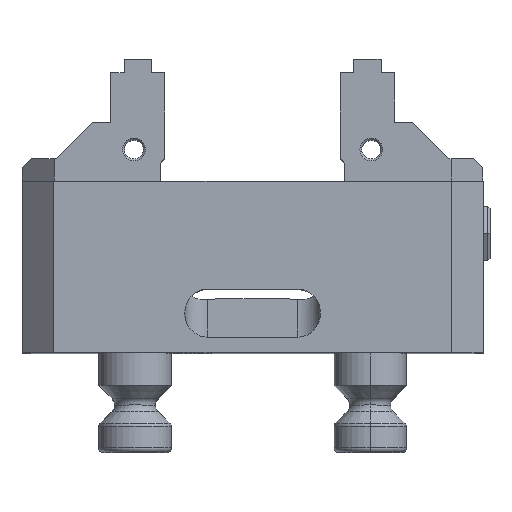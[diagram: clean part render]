
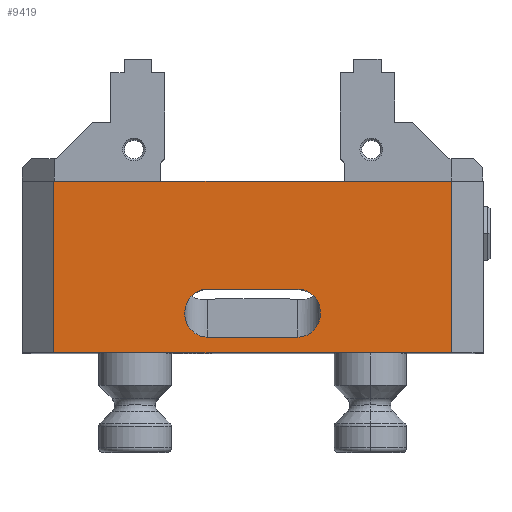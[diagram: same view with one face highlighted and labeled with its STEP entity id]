
A CAD part, top view. The second image highlights one B-rep face of the part: STEP entity #9419.
In plain terms, the highlighted planar face has unit normal (0, 0, 1).
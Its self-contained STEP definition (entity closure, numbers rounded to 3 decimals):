
#235 = ORIENTED_EDGE ( 'NONE', *, *, #1761, .F. ) ;
#391 = CARTESIAN_POINT ( 'NONE',  ( -10., 14.129, 38.5 ) ) ;
#524 = VECTOR ( 'NONE', #2841, 1000. ) ;
#566 = ORIENTED_EDGE ( 'NONE', *, *, #743, .T. ) ;
#695 = CARTESIAN_POINT ( 'NONE',  ( 51., 3.487, 38.5 ) ) ;
#743 = EDGE_CURVE ( 'NONE', #2304, #8644, #12532, .T. ) ;
#847 = VECTOR ( 'NONE', #13395, 1000. ) ;
#904 = ORIENTED_EDGE ( 'NONE', *, *, #7805, .F. ) ;
#963 = VECTOR ( 'NONE', #8796, 1000. ) ;
#1195 = CARTESIAN_POINT ( 'NONE',  ( 10., 3.487, 38.5 ) ) ;
#1478 = CARTESIAN_POINT ( 'NONE',  ( 15., 8.808, 38.5 ) ) ;
#1551 = PLANE ( 'NONE',  #9922 ) ;
#1740 = EDGE_LOOP ( 'NONE', ( #13845, #13939, #904, #9581 ) ) ;
#1761 = EDGE_CURVE ( 'NONE', #8580, #8644, #6250, .T. ) ;
#1778 = CARTESIAN_POINT ( 'NONE',  ( -10., 3.487, 38.5 ) ) ;
#1877 = DIRECTION ( 'NONE',  ( 1., 0., 0. ) ) ;
#1994 =( BOUNDED_CURVE ( )  B_SPLINE_CURVE ( 3, ( #1478, #13245, #4718, #9105 ),
 .UNSPECIFIED., .F., .T. ) 
 B_SPLINE_CURVE_WITH_KNOTS ( ( 4, 4 ),
 ( 1.571, 3.142 ),
 .UNSPECIFIED. ) 
 CURVE ( )  GEOMETRIC_REPRESENTATION_ITEM ( )  RATIONAL_B_SPLINE_CURVE ( ( 1., 0.805, 0.805, 1. ) ) 
 REPRESENTATION_ITEM ( '' )  );
#2021 = DIRECTION ( 'NONE',  ( -1., 0., 0. ) ) ;
#2304 = VERTEX_POINT ( 'NONE', #12303 ) ;
#2440 = ORIENTED_EDGE ( 'NONE', *, *, #9431, .T. ) ;
#2735 = CARTESIAN_POINT ( 'NONE',  ( -15., 8.808, 38.5 ) ) ;
#2761 = CARTESIAN_POINT ( 'NONE',  ( -15., 11.925, 38.5 ) ) ;
#2841 = DIRECTION ( 'NONE',  ( -1., 0., 0. ) ) ;
#2923 = ORIENTED_EDGE ( 'NONE', *, *, #9585, .F. ) ;
#3013 = VECTOR ( 'NONE', #2021, 1000. ) ;
#3782 = CARTESIAN_POINT ( 'NONE',  ( 51., 0., 38.5 ) ) ;
#4038 = CARTESIAN_POINT ( 'NONE',  ( 51., 38., 38.5 ) ) ;
#4205 = CARTESIAN_POINT ( 'NONE',  ( 44., 0., 38.5 ) ) ;
#4718 = CARTESIAN_POINT ( 'NONE',  ( 12.929, 3.487, 38.5 ) ) ;
#4809 = CARTESIAN_POINT ( 'NONE',  ( -12.929, 14.129, 38.5 ) ) ;
#4973 = CARTESIAN_POINT ( 'NONE',  ( -10., 3.487, 38.5 ) ) ;
#5036 = LINE ( 'NONE', #11905, #963 ) ;
#5242 = CARTESIAN_POINT ( 'NONE',  ( 51., 0., 38.5 ) ) ;
#5480 = VERTEX_POINT ( 'NONE', #14086 ) ;
#5557 = ORIENTED_EDGE ( 'NONE', *, *, #9739, .T. ) ;
#5774 = EDGE_CURVE ( 'NONE', #9577, #11404, #5036, .T. ) ;
#5840 = CARTESIAN_POINT ( 'NONE',  ( 44., 38., 38.5 ) ) ;
#5936 = VECTOR ( 'NONE', #1877, 1000. ) ;
#6250 = LINE ( 'NONE', #9564, #3013 ) ;
#6452 = LINE ( 'NONE', #695, #5936 ) ;
#6463 = FACE_BOUND ( 'NONE', #8951, .T. ) ;
#7077 = CARTESIAN_POINT ( 'NONE',  ( -44., 0., 38.5 ) ) ;
#7084 = VERTEX_POINT ( 'NONE', #1778 ) ;
#7106 = DIRECTION ( 'NONE',  ( 0., -1., 0. ) ) ;
#7112 = LINE ( 'NONE', #5840, #847 ) ;
#7300 = CARTESIAN_POINT ( 'NONE',  ( -44., 38., 38.5 ) ) ;
#7532 = CARTESIAN_POINT ( 'NONE',  ( 10., 14.129, 38.5 ) ) ;
#7801 = CARTESIAN_POINT ( 'NONE',  ( 10., 14.129, 38.5 ) ) ;
#7805 = EDGE_CURVE ( 'NONE', #12390, #11404, #9153, .T. ) ;
#8580 = VERTEX_POINT ( 'NONE', #7801 ) ;
#8603 = EDGE_CURVE ( 'NONE', #9441, #13733, #1994, .T. ) ;
#8638 = CARTESIAN_POINT ( 'NONE',  ( 15., 11.925, 38.5 ) ) ;
#8644 = VERTEX_POINT ( 'NONE', #10437 ) ;
#8796 = DIRECTION ( 'NONE',  ( 0., -1., 0. ) ) ;
#8951 = EDGE_LOOP ( 'NONE', ( #2923, #2440, #566, #235, #5557, #10465 ) ) ;
#9105 = CARTESIAN_POINT ( 'NONE',  ( 10., 3.487, 38.5 ) ) ;
#9138 = EDGE_CURVE ( 'NONE', #5480, #9577, #11622, .T. ) ;
#9153 = LINE ( 'NONE', #5242, #12743 ) ;
#9299 = CARTESIAN_POINT ( 'NONE',  ( -15., 8.808, 38.5 ) ) ;
#9368 = DIRECTION ( 'NONE',  ( 0., 0., -1. ) ) ;
#9419 = ADVANCED_FACE ( 'NONE', ( #13825, #6463 ), #1551, .F. ) ;
#9431 = EDGE_CURVE ( 'NONE', #7084, #2304, #13010, .T. ) ;
#9441 = VERTEX_POINT ( 'NONE', #13706 ) ;
#9564 = CARTESIAN_POINT ( 'NONE',  ( 51., 14.129, 38.5 ) ) ;
#9577 = VERTEX_POINT ( 'NONE', #7300 ) ;
#9581 = ORIENTED_EDGE ( 'NONE', *, *, #9878, .T. ) ;
#9585 = EDGE_CURVE ( 'NONE', #7084, #13733, #6452, .T. ) ;
#9707 = CARTESIAN_POINT ( 'NONE',  ( 15., 8.808, 38.5 ) ) ;
#9739 = EDGE_CURVE ( 'NONE', #8580, #9441, #13178, .T. ) ;
#9878 = EDGE_CURVE ( 'NONE', #12390, #5480, #7112, .T. ) ;
#9922 = AXIS2_PLACEMENT_3D ( 'NONE', #3782, #9368, #7106 ) ;
#10437 = CARTESIAN_POINT ( 'NONE',  ( -10., 14.129, 38.5 ) ) ;
#10458 = CARTESIAN_POINT ( 'NONE',  ( -12.929, 3.487, 38.5 ) ) ;
#10465 = ORIENTED_EDGE ( 'NONE', *, *, #8603, .T. ) ;
#11404 = VERTEX_POINT ( 'NONE', #7077 ) ;
#11622 = LINE ( 'NONE', #4038, #524 ) ;
#11905 = CARTESIAN_POINT ( 'NONE',  ( -44., 0., 38.5 ) ) ;
#12303 = CARTESIAN_POINT ( 'NONE',  ( -15., 8.808, 38.5 ) ) ;
#12390 = VERTEX_POINT ( 'NONE', #4205 ) ;
#12532 =( BOUNDED_CURVE ( )  B_SPLINE_CURVE ( 3, ( #9299, #2761, #4809, #391 ),
 .UNSPECIFIED., .F., .F. ) 
 B_SPLINE_CURVE_WITH_KNOTS ( ( 4, 4 ),
 ( 4.712, 6.283 ),
 .UNSPECIFIED. ) 
 CURVE ( )  GEOMETRIC_REPRESENTATION_ITEM ( )  RATIONAL_B_SPLINE_CURVE ( ( 1., 0.805, 0.805, 1. ) ) 
 REPRESENTATION_ITEM ( '' )  );
#12743 = VECTOR ( 'NONE', #12873, 1000. ) ;
#12873 = DIRECTION ( 'NONE',  ( -1., 0., 0. ) ) ;
#12940 = CARTESIAN_POINT ( 'NONE',  ( 12.929, 14.129, 38.5 ) ) ;
#13010 =( BOUNDED_CURVE ( )  B_SPLINE_CURVE ( 3, ( #4973, #10458, #13499, #2735 ),
 .UNSPECIFIED., .F., .T. ) 
 B_SPLINE_CURVE_WITH_KNOTS ( ( 4, 4 ),
 ( 0., 1.571 ),
 .UNSPECIFIED. ) 
 CURVE ( )  GEOMETRIC_REPRESENTATION_ITEM ( )  RATIONAL_B_SPLINE_CURVE ( ( 1., 0.805, 0.805, 1. ) ) 
 REPRESENTATION_ITEM ( '' )  );
#13178 =( BOUNDED_CURVE ( )  B_SPLINE_CURVE ( 3, ( #7532, #12940, #8638, #9707 ),
 .UNSPECIFIED., .F., .F. ) 
 B_SPLINE_CURVE_WITH_KNOTS ( ( 4, 4 ),
 ( 3.142, 4.712 ),
 .UNSPECIFIED. ) 
 CURVE ( )  GEOMETRIC_REPRESENTATION_ITEM ( )  RATIONAL_B_SPLINE_CURVE ( ( 1., 0.805, 0.805, 1. ) ) 
 REPRESENTATION_ITEM ( '' )  );
#13245 = CARTESIAN_POINT ( 'NONE',  ( 15., 5.691, 38.5 ) ) ;
#13395 = DIRECTION ( 'NONE',  ( 0., 1., 0. ) ) ;
#13499 = CARTESIAN_POINT ( 'NONE',  ( -15., 5.691, 38.5 ) ) ;
#13706 = CARTESIAN_POINT ( 'NONE',  ( 15., 8.808, 38.5 ) ) ;
#13733 = VERTEX_POINT ( 'NONE', #1195 ) ;
#13825 = FACE_OUTER_BOUND ( 'NONE', #1740, .T. ) ;
#13845 = ORIENTED_EDGE ( 'NONE', *, *, #9138, .T. ) ;
#13939 = ORIENTED_EDGE ( 'NONE', *, *, #5774, .T. ) ;
#14086 = CARTESIAN_POINT ( 'NONE',  ( 44., 38., 38.5 ) ) ;
